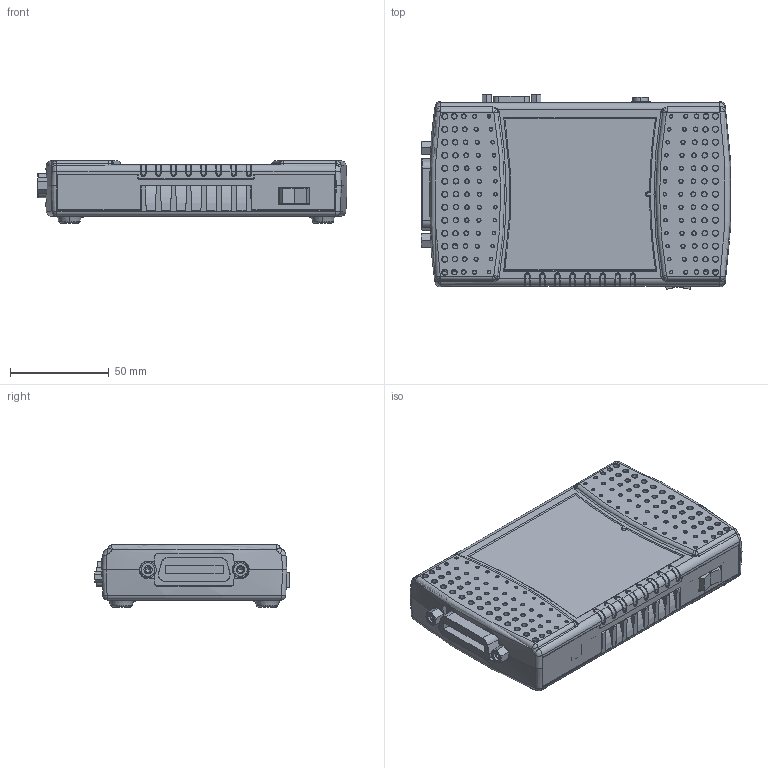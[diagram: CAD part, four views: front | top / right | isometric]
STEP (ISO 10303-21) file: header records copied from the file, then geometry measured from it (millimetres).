
FILE_DESCRIPTION((''),'2;1');
FILE_NAME('CU_GPIB-232_485','2011-07-06T',('stgill'),(''),'PRO/ENGINEER BY PARAMETRIC TECHNOLOGY CORPORATION, 2010230','PRO/ENGINEER BY PARAMETRIC TECHNOLOGY CORPORATION, 2010230','');
FILE_SCHEMA(('CONFIG_CONTROL_DESIGN'));
Products named in the file (1): CU_GPIB-232_485
Bounding box: 156.59 x 98.44 x 31.5 mm (x, y, z)
Volume: 115372.3 mm3; surface area: 120462.9 mm2
Topology: 2 solids, 2 shells, 2608 faces, 6803 edges, 4181 vertices
Faces by surface type: plane 1018, cylinder 621, cone 402, torus 384, bspline 110, sphere 72, extrusion 1
Entity records: 96337 total; most frequent: CARTESIAN_POINT 32388, ORIENTED_EDGE 13574, DIRECTION 13158, EDGE_CURVE 6787, AXIS2_PLACEMENT_3D 4893, VERTEX_POINT 4181, VECTOR 3372, LINE 3371
